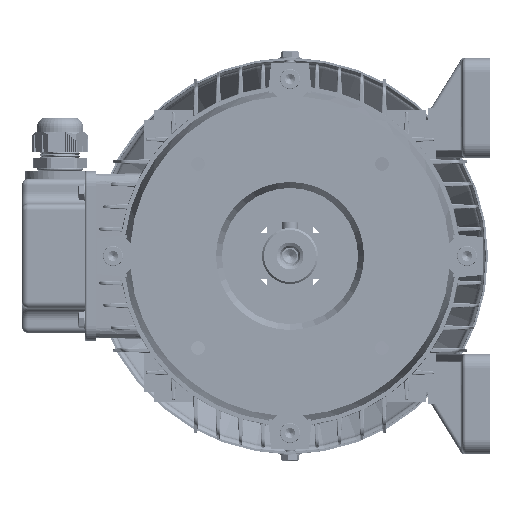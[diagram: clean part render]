
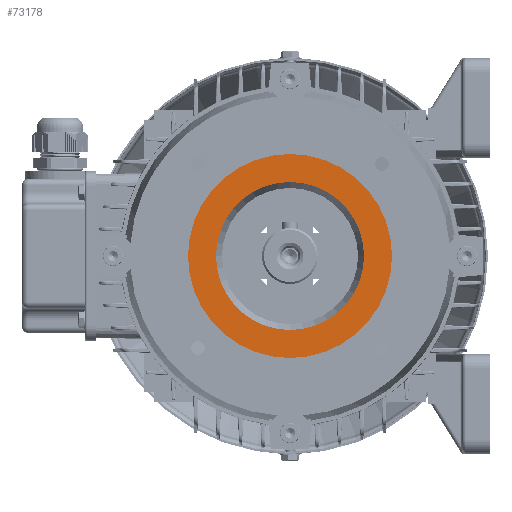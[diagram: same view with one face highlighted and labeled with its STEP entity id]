
A CAD part, left-side view. The second image highlights one B-rep face of the part: STEP entity #73178.
In plain terms, the highlighted planar face has unit normal (-1, 0, 0).
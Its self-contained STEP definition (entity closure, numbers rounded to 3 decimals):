
#5066 = DIRECTION ( 'NONE',  ( 1., 0., 0. ) ) ;
#6744 = FACE_OUTER_BOUND ( 'NONE', #116494, .T. ) ;
#11548 = VERTEX_POINT ( 'NONE', #108956 ) ;
#19888 = EDGE_LOOP ( 'NONE', ( #120509, #111128 ) ) ;
#20263 = DIRECTION ( 'NONE',  ( 0., 0., 1. ) ) ;
#26779 = CARTESIAN_POINT ( 'NONE',  ( -10.5, 0., 0. ) ) ;
#37660 = DIRECTION ( 'NONE',  ( 0., 0., 1. ) ) ;
#37830 = VERTEX_POINT ( 'NONE', #97855 ) ;
#46924 = ORIENTED_EDGE ( 'NONE', *, *, #115879, .T. ) ;
#52455 = CARTESIAN_POINT ( 'NONE',  ( -10.5, 0., -51. ) ) ;
#52577 = EDGE_CURVE ( 'NONE', #37830, #11548, #57885, .T. ) ;
#57885 = CIRCLE ( 'NONE', #59419, 37. ) ;
#59419 = AXIS2_PLACEMENT_3D ( 'NONE', #145029, #107554, #156725 ) ;
#72730 = DIRECTION ( 'NONE',  ( -1., 0., 0. ) ) ;
#73178 = ADVANCED_FACE ( 'NONE', ( #135368, #6744 ), #112901, .F. ) ;
#84809 = CARTESIAN_POINT ( 'NONE',  ( -10.5, 0., 0. ) ) ;
#88158 = DIRECTION ( 'NONE',  ( -1., 0., 0. ) ) ;
#90647 = CARTESIAN_POINT ( 'NONE',  ( -10.5, 37., 0. ) ) ;
#92502 = CIRCLE ( 'NONE', #101811, 51. ) ;
#92657 = CARTESIAN_POINT ( 'NONE',  ( -10.5, 0., 0. ) ) ;
#97855 = CARTESIAN_POINT ( 'NONE',  ( -10.5, 0., -37. ) ) ;
#101811 = AXIS2_PLACEMENT_3D ( 'NONE', #92657, #129145, #20263 ) ;
#104114 = ORIENTED_EDGE ( 'NONE', *, *, #155219, .T. ) ;
#107554 = DIRECTION ( 'NONE',  ( -1., 0., 0. ) ) ;
#108956 = CARTESIAN_POINT ( 'NONE',  ( -10.5, 0., 37. ) ) ;
#111128 = ORIENTED_EDGE ( 'NONE', *, *, #52577, .F. ) ;
#112901 = PLANE ( 'NONE',  #128231 ) ;
#115879 = EDGE_CURVE ( 'NONE', #155832, #149552, #92502, .T. ) ;
#116494 = EDGE_LOOP ( 'NONE', ( #104114, #46924 ) ) ;
#118511 = CIRCLE ( 'NONE', #120238, 37. ) ;
#120238 = AXIS2_PLACEMENT_3D ( 'NONE', #84809, #72730, #37660 ) ;
#120509 = ORIENTED_EDGE ( 'NONE', *, *, #154297, .F. ) ;
#125018 = DIRECTION ( 'NONE',  ( 0., 0., -1. ) ) ;
#128231 = AXIS2_PLACEMENT_3D ( 'NONE', #90647, #5066, #125018 ) ;
#129145 = DIRECTION ( 'NONE',  ( -1., 0., 0. ) ) ;
#130241 = CARTESIAN_POINT ( 'NONE',  ( -10.5, 0., 51. ) ) ;
#130395 = AXIS2_PLACEMENT_3D ( 'NONE', #26779, #88158, #135723 ) ;
#135368 = FACE_BOUND ( 'NONE', #19888, .T. ) ;
#135723 = DIRECTION ( 'NONE',  ( 0., 0., 1. ) ) ;
#139024 = CIRCLE ( 'NONE', #130395, 51. ) ;
#145029 = CARTESIAN_POINT ( 'NONE',  ( -10.5, 0., 0. ) ) ;
#149552 = VERTEX_POINT ( 'NONE', #130241 ) ;
#154297 = EDGE_CURVE ( 'NONE', #11548, #37830, #118511, .T. ) ;
#155219 = EDGE_CURVE ( 'NONE', #149552, #155832, #139024, .T. ) ;
#155832 = VERTEX_POINT ( 'NONE', #52455 ) ;
#156725 = DIRECTION ( 'NONE',  ( 0., 0., 1. ) ) ;
